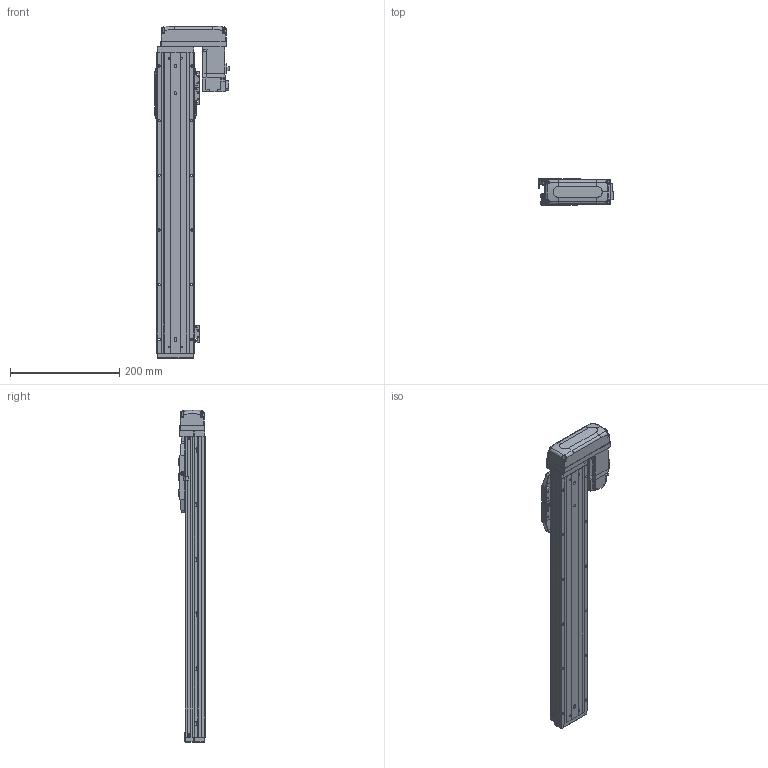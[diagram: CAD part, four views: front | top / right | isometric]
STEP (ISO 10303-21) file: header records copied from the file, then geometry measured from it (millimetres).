
FILE_DESCRIPTION (( 'STEP AP203' ), '1' );
FILE_NAME ('CTHA60-400-BL-M10-C4L.step', '2022-03-19T06:14:05', ( '微软用户' ), ( '微软中国' ), 'SwSTEP 2.0', 'SolidWorks 2020', '' );
FILE_SCHEMA (( 'CONFIG_CONTROL_DESIGN' ));
Length unit declared in the file: millimetre
Products named in the file (18): CTHA60-006-1; CTHA60-005; GBT 70.1-M3℅6; CTHA60-033; GB¨uT 70.2-M3¡Á6_M3¡Á6; GBT 70.3-M3℅6; CTHA60-400-BL-M10-C4L; EE_SX911P_R; CTHA60-016; CTHA60-017; HG-KR13（三菱）; CTHA60-021; CTHA60-002; CTHA60-001_550; GBT 70.1-M4×16; CTHA60-031; CTHA60-004; GBT77-2000 M3×3
Assembly tree (54 placements, depth 2):
  CTHA60-400-BL-M10-C4L
    CTHA60-001_550
    CTHA60-004
    CTHA60-005
    GB¨uT 70.2-M3¡Á6_M3¡Á6  x10
    EE_SX911P_R  x3
    CTHA60-017  x3
    CTHA60-021  x2
    GBT 70.1-M4×16  x10
    GBT77-2000 M3×3  x6
    GBT 70.1-M3℅6  x6
    GBT 70.3-M3℅6  x4
    CTHA60-016  x2
    HG-KR13（三菱）
    CTHA60-002
    CTHA60-031
    CTHA60-006-1
    CTHA60-033
Bounding box: 137.1 x 48 x 607 mm (x, y, z)
Volume: 1118476.3 mm3; surface area: 344510.6 mm2
Topology: 56 solids, 56 shells, 2494 faces, 5981 edges, 3685 vertices
Faces by surface type: plane 1437, cylinder 571, cone 338, torus 92, bspline 32, sphere 24
Entity records: 44365 total; most frequent: CARTESIAN_POINT 8586, DIRECTION 6836, ORIENTED_EDGE 6770, EDGE_CURVE 3385, LINE 2400, VECTOR 2400, AXIS2_PLACEMENT_3D 2218, VERTEX_POINT 2144
